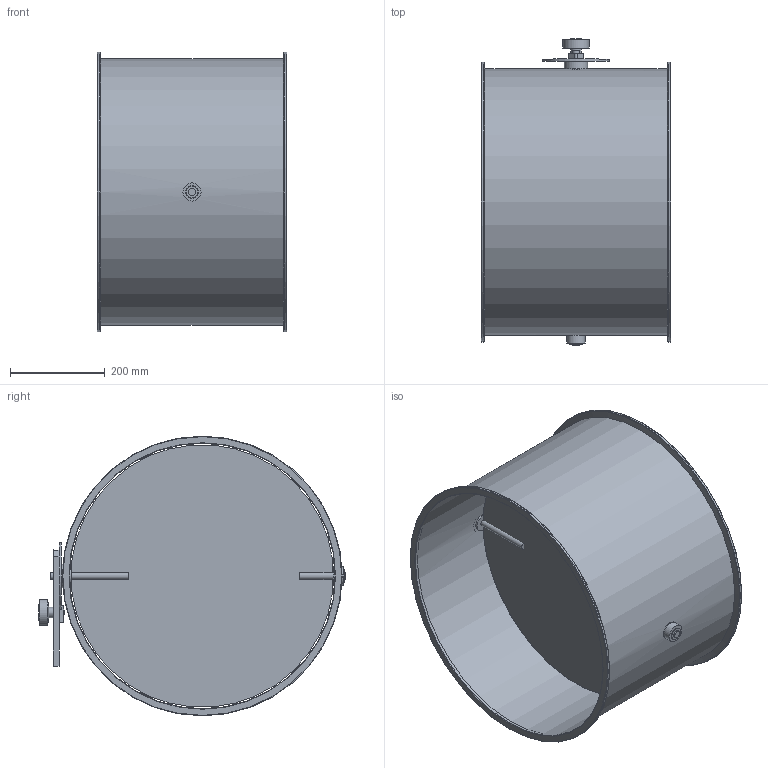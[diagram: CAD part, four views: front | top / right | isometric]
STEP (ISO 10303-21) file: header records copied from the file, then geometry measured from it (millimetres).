
FILE_DESCRIPTION(/* description */ (''),/* implementation_level */ '2;1');
FILE_NAME(/* name */ 'METU_Drosselklappe_Flansch_verzinkt_EA111-80B__560_L400_handbetaetigt.stp',/* time_stamp */ '2022-04-22T14:03:28+02:00',/* author */ (''),/* organization */ (''),/* preprocessor_version */ 'ST-DEVELOPER v11',/* originating_system */ 'SIEMENS UGS NX 6.0',/* authorisation */ '');
FILE_SCHEMA (('CONFIG_CONTROL_DESIGN'));
Length unit declared in the file: millimetre
Products named in the file (1): d.ga332Aq8v1
Bounding box: 400 x 647.34 x 590 mm (x, y, z)
Volume: 1658518.1 mm3; surface area: 2087388.8 mm2
Topology: 12 solids, 12 shells, 87 faces, 177 edges, 120 vertices
Faces by surface type: plane 41, cylinder 36, torus 6, cone 2, sphere 2
Full cylindrical faces by diameter (mm): 6 x6, 8.5 x1, 10 x1, 11 x1, 15 x5, 22 x1, 25 x3, 25.85 x2, 26 x2, 38 x3, 48 x1, 49 x1, 55 x1, 140 x1, 560 x1, 562 x1, 590 x2
Entity records: 2166 total; most frequent: CARTESIAN_POINT 382, DIRECTION 368, ORIENTED_EDGE 242, EDGE_LOOP 168, AXIS2_PLACEMENT_3D 163, FACE_BOUND 146, EDGE_CURVE 121, VERTEX_POINT 105
